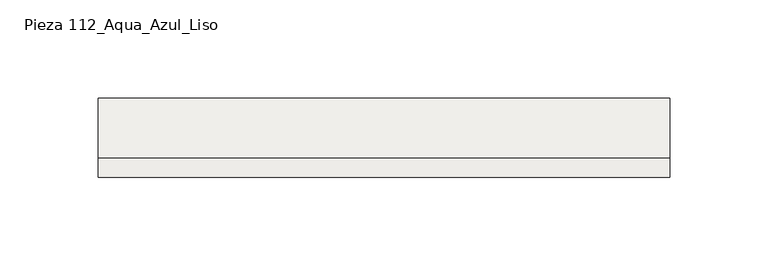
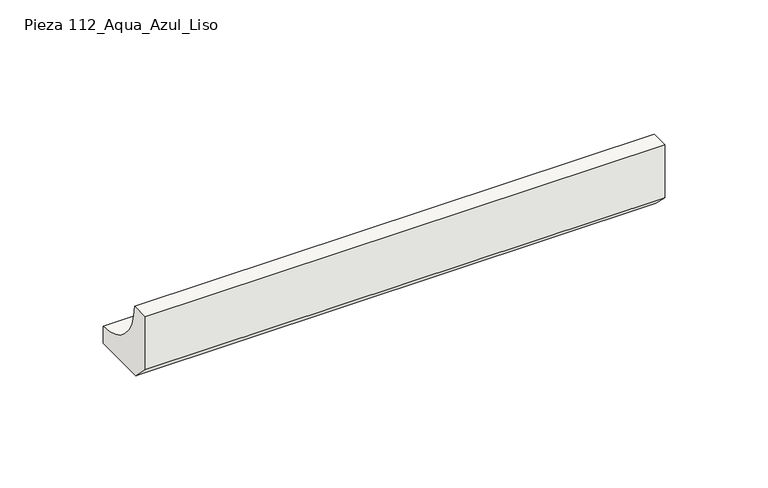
"""IFC4 building model written with IfcOpenShell, lengths in millimetres: slab geometry, ROSA GRES_112 : Pieza 112_Aqua_Azul_Liso."""

from ifc_helpers import new_model, si_unit, point, frame, frame_2d, origin, place, context, project, spatial, polyline, circle_curve, trimmed, segment, composite_curve, outline, extrude, source, transform, mapped, element, save


def pieza_112_aqua_azul_liso_401beb7e(model_context):
    return source(origin(), model_context, "Body", "SweptSolid", [
        extrude(outline(composite_curve([segment(polyline([(0.0, 8.7114978), (0.0, 40.0), (9.9734114, 40.0)]), True, "CONTINUOUS"), segment(trimmed(circle_curve(frame_2d((39.9955547, 39.9955547)), 30.0221435), [point((9.9734114, 40.0))], [point((40.0, 9.9734114))], True, "CARTESIAN"), True, "CONTINUOUS"), segment(polyline([(40.0, 9.9734114), (40.0, 0.0), (8.7114978, 0.0), (0.0, 8.7114978)]), True, "CONTINUOUS")], self_intersect=False)), frame((0.0, 0.0, 0.0), z_axis=(1.0, 0.0, 0.0), x_axis=(0.0, 1.0, 0.0)), (0.0, 0.0, 1.0), 290.0),
    ])


if __name__ == "__main__":
    model = new_model("IFC4")
    model_context = context("Model", 3, world=origin())
    ifc_project = project(units=[si_unit("LENGTHUNIT", "METRE", prefix="MILLI")], contexts=[model_context])
    site = spatial("IfcSite", under=ifc_project)
    building = spatial("IfcBuilding", under=site)
    placement = place(None, origin())
    pieza_112_aqua_azul_liso_shape = pieza_112_aqua_azul_liso_401beb7e(model_context)
    element("IfcSlab", 1, ObjectType="ROSA GRES_112 : Pieza 112_Aqua_Azul_Liso", at=placement, inside=building, context=model_context, shape_type="MappedRepresentation", body=[
        mapped(pieza_112_aqua_azul_liso_shape, transform((0.0, 0.0, 0.0), x_axis=(1.0, 0.0, 0.0), y_axis=(0.0, 1.0, 0.0), z_axis=(0.0, 0.0, 1.0))),
    ])
    save(model, "model.ifc")
